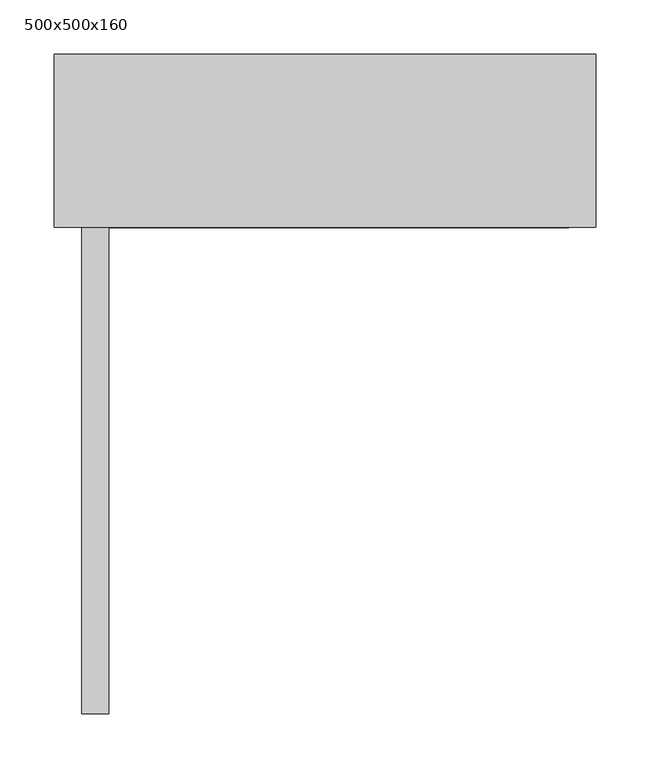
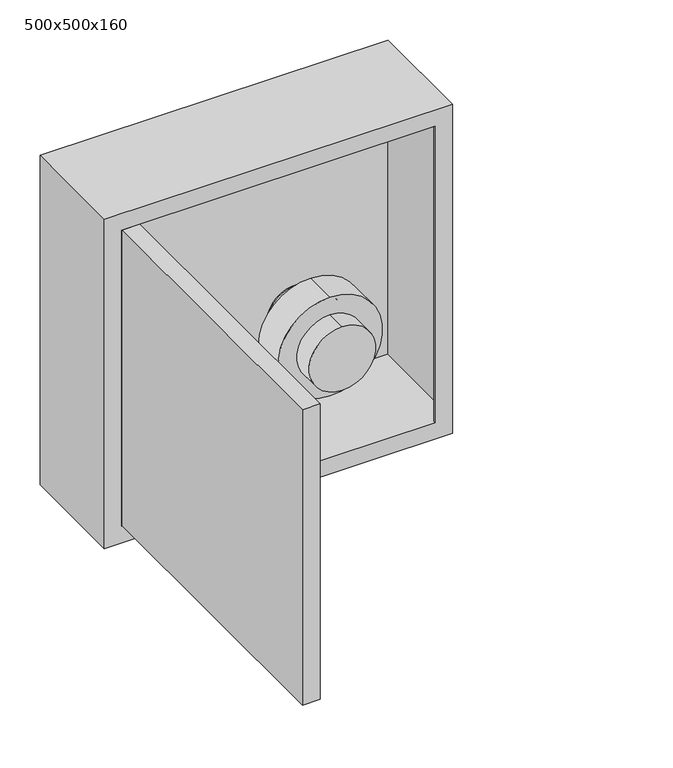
"""IFC4 building model written with IfcOpenShell, lengths in millimetres: furniture geometry, ME_ST_UN_connection box double connection_ACO : 500x500x160."""

from ifc_helpers import new_model, si_unit, point, frame, frame_2d, origin, place, context, project, spatial, polyline, circle_curve, trimmed, segment, composite_curve, outline, extrude, source, transform, mapped, element, save
from ifc_brep_helpers import plane_surface, cylinder_surface, revolved_surface, advanced_brep


def furniture_500x500x160_cb3627f5(model_context):
    return source(origin(), model_context, "Body", "SolidModel", [
        extrude(outline(composite_curve([segment(trimmed(circle_curve(frame_2d((136.5, 115.0)), 25.0), [point((111.5, 115.0))], [point((161.5, 115.0))], False, "CARTESIAN"), True, "CONTINUOUS"), segment(trimmed(circle_curve(frame_2d((136.5, 115.0)), 25.0), [point((161.5, 115.0))], [point((111.5, 115.0))], False, "CARTESIAN"), True, "CONTINUOUS")], self_intersect=False)), frame((0.0, 148.0, 0.0), z_axis=(0.0, 1.0, 0.0), x_axis=(0.0, 0.0, 1.0)), (0.0, 0.0, 1.0), 12.0),
        advanced_brep(
        [(115.0, 148.0, 88.5), (115.0, 148.0, 184.5), (115.0, 40.0, 88.5), (115.0, 40.0, 184.5), (115.0, 118.0, 184.5), (115.0, 118.0, 88.5), (115.0, 70.0, 88.5), (115.0, 70.0, 184.5), (115.0, 118.0, 61.5), (115.0, 118.0, 211.5), (115.0, 70.0, 61.5), (115.0, 70.0, 211.5)],
        [
            (0, 1, circle_curve(frame((115.0, 148.0, 136.5), z_axis=(0.0, 1.0, 0.0), x_axis=(0.0, 0.0, 1.0)), 48.0)),
            (1, 0, circle_curve(frame((115.0, 148.0, 136.5), z_axis=(0.0, 1.0, 0.0), x_axis=(0.0, 0.0, 1.0)), 48.0)),
            (2, 3, circle_curve(frame((115.0, 40.0, 136.5), z_axis=(0.0, -1.0, 0.0), x_axis=(0.0, 0.0, 1.0)), 48.0)),
            (3, 2, circle_curve(frame((115.0, 40.0, 136.5), z_axis=(0.0, -1.0, 0.0), x_axis=(0.0, 0.0, 1.0)), 48.0)),
            (1, 4),
            (4, 5, circle_curve(frame((115.0, 118.0, 136.5), z_axis=(0.0, 1.0, 0.0), x_axis=(0.0, 0.0, 1.0)), 48.0)),
            (5, 0),
            (2, 6),
            (6, 7, circle_curve(frame((115.0, 70.0, 136.5), z_axis=(0.0, -1.0, 0.0), x_axis=(0.0, 0.0, 1.0)), 48.0)),
            (7, 3),
            (5, 4, circle_curve(frame((115.0, 118.0, 136.5), z_axis=(0.0, 1.0, 0.0), x_axis=(0.0, 0.0, 1.0)), 48.0)),
            (7, 6, circle_curve(frame((115.0, 70.0, 136.5), z_axis=(0.0, -1.0, 0.0), x_axis=(0.0, 0.0, 1.0)), 48.0)),
            (8, 9, circle_curve(frame((115.0, 118.0, 136.5), z_axis=(0.0, 1.0, 0.0), x_axis=(0.0, 0.0, 1.0)), 75.0)),
            (9, 8, circle_curve(frame((115.0, 118.0, 136.5), z_axis=(0.0, 1.0, 0.0), x_axis=(0.0, 0.0, 1.0)), 75.0)),
            (10, 11, circle_curve(frame((115.0, 70.0, 136.5), z_axis=(0.0, -1.0, 0.0), x_axis=(0.0, 0.0, 1.0)), 75.0)),
            (11, 10, circle_curve(frame((115.0, 70.0, 136.5), z_axis=(0.0, -1.0, 0.0), x_axis=(0.0, 0.0, 1.0)), 75.0)),
            (9, 11),
            (10, 8),
        ],
        [
            plane_surface(frame((115.0, 148.0, 184.5), z_axis=(0.0, 1.0, 0.0), x_axis=(1.0, 0.0, 0.0))),
            plane_surface(frame((115.0, 40.0, 184.5), z_axis=(0.0, -1.0, 0.0), x_axis=(-1.0, 0.0, 0.0))),
            cylinder_surface(frame((115.0, 148.0, 136.5), z_axis=(0.0, -1.0, 0.0), x_axis=(0.0, 0.0, 1.0)), 48.0),
            plane_surface(frame((115.0, 118.0, 211.5), z_axis=(0.0, 1.0, 0.0), x_axis=(1.0, 0.0, 0.0))),
            plane_surface(frame((115.0, 70.0, 211.5), z_axis=(0.0, -1.0, 0.0), x_axis=(-1.0, 0.0, 0.0))),
            cylinder_surface(frame((115.0, 118.0, 136.5), z_axis=(0.0, -1.0, 0.0), x_axis=(0.0, 0.0, 1.0)), 75.0),
        ],
        [
            (0, [[1, 2]]),
            (1, [[3, 4]]),
            (2, [[-2, 5, 6, 7]]),
            (2, [[-3, 8, 9, 10]]),
            (2, [[-1, -7, 11, -5]]),
            (2, [[-4, -10, 12, -8]]),
            (3, [[13, 14], [-6, -11]]),
            (4, [[15, 16], [-9, -12]]),
            (5, [[-14, 17, -15, 18]]),
            (5, [[-13, -18, -16, -17]]),
        ],
    ),
        extrude(outline(composite_curve([segment(trimmed(circle_curve(frame_2d((136.5, -115.0)), 25.0), [point((111.5, -115.0))], [point((161.5, -115.0))], False, "CARTESIAN"), True, "CONTINUOUS"), segment(trimmed(circle_curve(frame_2d((136.5, -115.0)), 25.0), [point((161.5, -115.0))], [point((111.5, -115.0))], False, "CARTESIAN"), True, "CONTINUOUS")], self_intersect=False)), frame((0.0, 148.0, 0.0), z_axis=(0.0, 1.0, 0.0), x_axis=(0.0, 0.0, 1.0)), (0.0, 0.0, 1.0), 12.0),
        advanced_brep(
        [(-115.0, 148.0, 88.5), (-115.0, 148.0, 184.5), (-115.0, 40.0, 88.5), (-115.0, 40.0, 184.5), (-115.0, 118.0, 184.5), (-115.0, 118.0, 88.5), (-115.0, 70.0, 88.5), (-115.0, 70.0, 184.5), (-115.0, 118.0, 61.5), (-115.0, 118.0, 211.5), (-115.0, 70.0, 61.5), (-115.0, 70.0, 211.5)],
        [
            (0, 1, circle_curve(frame((-115.0, 148.0, 136.5), z_axis=(0.0, 1.0, 0.0), x_axis=(0.0, 0.0, 1.0)), 48.0)),
            (1, 0, circle_curve(frame((-115.0, 148.0, 136.5), z_axis=(0.0, 1.0, 0.0), x_axis=(0.0, 0.0, 1.0)), 48.0)),
            (2, 3, circle_curve(frame((-115.0, 40.0, 136.5), z_axis=(0.0, -1.0, 0.0), x_axis=(0.0, 0.0, 1.0)), 48.0)),
            (3, 2, circle_curve(frame((-115.0, 40.0, 136.5), z_axis=(0.0, -1.0, 0.0), x_axis=(0.0, 0.0, 1.0)), 48.0)),
            (1, 4),
            (4, 5, circle_curve(frame((-115.0, 118.0, 136.5), z_axis=(0.0, 1.0, 0.0), x_axis=(0.0, 0.0, 1.0)), 48.0)),
            (5, 0),
            (2, 6),
            (6, 7, circle_curve(frame((-115.0, 70.0, 136.5), z_axis=(0.0, -1.0, 0.0), x_axis=(0.0, 0.0, 1.0)), 48.0)),
            (7, 3),
            (5, 4, circle_curve(frame((-115.0, 118.0, 136.5), z_axis=(0.0, 1.0, 0.0), x_axis=(0.0, 0.0, 1.0)), 48.0)),
            (7, 6, circle_curve(frame((-115.0, 70.0, 136.5), z_axis=(0.0, -1.0, 0.0), x_axis=(0.0, 0.0, 1.0)), 48.0)),
            (8, 9, circle_curve(frame((-115.0, 118.0, 136.5), z_axis=(0.0, 1.0, 0.0), x_axis=(0.0, 0.0, 1.0)), 75.0)),
            (9, 8, circle_curve(frame((-115.0, 118.0, 136.5), z_axis=(0.0, 1.0, 0.0), x_axis=(0.0, 0.0, 1.0)), 75.0)),
            (10, 11, circle_curve(frame((-115.0, 70.0, 136.5), z_axis=(0.0, -1.0, 0.0), x_axis=(0.0, 0.0, 1.0)), 75.0)),
            (11, 10, circle_curve(frame((-115.0, 70.0, 136.5), z_axis=(0.0, -1.0, 0.0), x_axis=(0.0, 0.0, 1.0)), 75.0)),
            (9, 11),
            (10, 8),
        ],
        [
            plane_surface(frame((-115.0, 148.0, 184.5), z_axis=(0.0, 1.0, 0.0), x_axis=(1.0, 0.0, 0.0))),
            plane_surface(frame((-115.0, 40.0, 184.5), z_axis=(0.0, -1.0, 0.0), x_axis=(-1.0, 0.0, 0.0))),
            cylinder_surface(frame((-115.0, 148.0, 136.5), z_axis=(0.0, -1.0, 0.0), x_axis=(0.0, 0.0, 1.0)), 48.0),
            plane_surface(frame((-115.0, 118.0, 211.5), z_axis=(0.0, 1.0, 0.0), x_axis=(1.0, 0.0, 0.0))),
            plane_surface(frame((-115.0, 70.0, 211.5), z_axis=(0.0, -1.0, 0.0), x_axis=(-1.0, 0.0, 0.0))),
            cylinder_surface(frame((-115.0, 118.0, 136.5), z_axis=(0.0, -1.0, 0.0), x_axis=(0.0, 0.0, 1.0)), 75.0),
        ],
        [
            (0, [[1, 2]]),
            (1, [[3, 4]]),
            (2, [[-2, 5, 6, 7]]),
            (2, [[-3, 8, 9, 10]]),
            (2, [[-1, -7, 11, -5]]),
            (2, [[-4, -10, 12, -8]]),
            (3, [[13, 14], [-6, -11]]),
            (4, [[15, 16], [-9, -12]]),
            (5, [[-14, 17, -15, 18]]),
            (5, [[-13, -18, -16, -17]]),
        ],
    ),
        extrude(outline(polyline([(-224.5, -449.0), (-224.5, 0.0), (-199.5, 0.0), (-199.5, -449.0), (-224.5, -449.0)])), frame((0.0, 0.0, 25.5), z_axis=(0.0, 0.0, 1.0), x_axis=(1.0, 0.0, 0.0)), (0.0, 0.0, 1.0), 449.0),
        advanced_brep(
        [(250.0, 160.0, 500.0), (-250.0, 160.0, 500.0), (-250.0, 0.0, 500.0), (250.0, 0.0, 500.0), (250.0, 160.0, 0.0), (250.0, 0.0, 0.0), (-250.0, 0.0, 0.0), (-250.0, 160.0, 0.0), (-155.0, 160.0, 136.5), (-75.0, 160.0, 136.5), (75.0, 160.0, 136.5), (155.0, 160.0, 136.5), (-225.0, 0.0, 475.0), (225.0, 0.0, 475.0), (225.0, 0.0, 25.0), (-225.0, 0.0, 25.0), (248.0, 158.0, 475.0), (248.0, 2.0, 475.0), (225.0, 2.0, 475.0), (-225.0, 2.0, 475.0), (-248.0, 2.0, 475.0), (-248.0, 158.0, 475.0), (248.0, 158.0, 25.0), (-248.0, 158.0, 25.0), (-248.0, 2.0, 25.0), (-225.0, 2.0, 25.0), (225.0, 2.0, 25.0), (248.0, 2.0, 25.0), (-75.0, 158.0, 136.5), (-155.0, 158.0, 136.5), (155.0, 158.0, 136.5), (75.0, 158.0, 136.5)],
        [
            (0, 1),
            (1, 2),
            (2, 3),
            (3, 0),
            (4, 5),
            (5, 6),
            (6, 7),
            (7, 4),
            (0, 4),
            (7, 1),
            (8, 9, circle_curve(frame((-115.0, 160.0, 136.5), z_axis=(0.0, -1.0, 0.0), x_axis=(1.0, 0.0, 0.0)), 40.0)),
            (9, 8, circle_curve(frame((-115.0, 160.0, 136.5), z_axis=(0.0, -1.0, 0.0), x_axis=(1.0, 0.0, 0.0)), 40.0)),
            (10, 11, circle_curve(frame((115.0, 160.0, 136.5), z_axis=(0.0, -1.0, 0.0), x_axis=(1.0, 0.0, 0.0)), 40.0)),
            (11, 10, circle_curve(frame((115.0, 160.0, 136.5), z_axis=(0.0, -1.0, 0.0), x_axis=(1.0, 0.0, 0.0)), 40.0)),
            (6, 2),
            (5, 3),
            (12, 13),
            (13, 14),
            (14, 15),
            (15, 12),
            (16, 17),
            (17, 18),
            (18, 13),
            (12, 19),
            (19, 20),
            (20, 21),
            (21, 16),
            (22, 23),
            (23, 24),
            (24, 25),
            (25, 15),
            (14, 26),
            (26, 27),
            (27, 22),
            (21, 23),
            (22, 16),
            (28, 29, circle_curve(frame((-115.0, 158.0, 136.5), z_axis=(0.0, 1.0, 0.0), x_axis=(1.0, 0.0, 0.0)), 40.0)),
            (29, 28, circle_curve(frame((-115.0, 158.0, 136.5), z_axis=(0.0, 1.0, 0.0), x_axis=(1.0, 0.0, 0.0)), 40.0)),
            (30, 31, circle_curve(frame((115.0, 158.0, 136.5), z_axis=(0.0, 1.0, 0.0), x_axis=(1.0, 0.0, 0.0)), 40.0)),
            (31, 30, circle_curve(frame((115.0, 158.0, 136.5), z_axis=(0.0, 1.0, 0.0), x_axis=(1.0, 0.0, 0.0)), 40.0)),
            (27, 17),
            (20, 24),
            (19, 25),
            (18, 26),
            (28, 9),
            (8, 29),
            (30, 11),
            (10, 31),
        ],
        [
            plane_surface(frame((-250.0, 160.0, 500.0), z_axis=(0.0, 0.0, 1.0), x_axis=(-1.0, 0.0, 0.0))),
            plane_surface(frame((-250.0, 160.0, 0.0), z_axis=(0.0, 0.0, -1.0), x_axis=(1.0, 0.0, 0.0))),
            plane_surface(frame((250.0, 160.0, 500.0), z_axis=(0.0, 1.0, 0.0), x_axis=(0.0, 0.0, -1.0))),
            plane_surface(frame((-250.0, 160.0, 500.0), z_axis=(-1.0, 0.0, 0.0), x_axis=(0.0, 0.0, -1.0))),
            plane_surface(frame((-250.0, 0.0, 500.0), z_axis=(0.0, -1.0, 0.0), x_axis=(0.0, 0.0, -1.0))),
            plane_surface(frame((250.0, 0.0, 500.0), z_axis=(1.0, 0.0, 0.0), x_axis=(0.0, 0.0, -1.0))),
            plane_surface(frame((-248.0, 158.0, 475.0), z_axis=(0.0, 0.0, -1.0), x_axis=(-1.0, 0.0, 0.0))),
            plane_surface(frame((-248.0, 158.0, 25.0), z_axis=(0.0, 0.0, 1.0), x_axis=(1.0, 0.0, 0.0))),
            plane_surface(frame((248.0, 158.0, 475.0), z_axis=(0.0, -1.0, 0.0), x_axis=(0.0, 0.0, -1.0))),
            plane_surface(frame((248.0, 2.0, 475.0), z_axis=(-1.0, 0.0, 0.0), x_axis=(0.0, 0.0, -1.0))),
            plane_surface(frame((-248.0, 158.0, 475.0), z_axis=(1.0, 0.0, 0.0), x_axis=(0.0, 0.0, -1.0))),
            plane_surface(frame((-248.0, 2.0, 475.0), z_axis=(0.0, 1.0, 0.0), x_axis=(0.0, 0.0, -1.0))),
            plane_surface(frame((-225.0, 2.0, 475.0), z_axis=(1.0, 0.0, 0.0), x_axis=(0.0, 0.0, -1.0))),
            plane_surface(frame((225.0, 0.0, 475.0), z_axis=(-1.0, 0.0, 0.0), x_axis=(0.0, 0.0, -1.0))),
            plane_surface(frame((225.0, 2.0, 475.0), z_axis=(0.0, 1.0, 0.0), x_axis=(0.0, 0.0, -1.0))),
            revolved_surface(polyline([(-75.0, 158.0, 136.5), (-75.0, 160.0, 136.5)]), (-115.0, 160.0, 136.5), (0.0, -1.0, 0.0)),
            revolved_surface(polyline([(155.0, 158.0, 136.5), (155.0, 160.0, 136.5)]), (115.0, 160.0, 136.5), (0.0, -1.0, 0.0)),
        ],
        [
            (0, [[1, 2, 3, 4]]),
            (1, [[5, 6, 7, 8]]),
            (2, [[-1, 9, -8, 10], [11, 12], [13, 14]]),
            (3, [[-2, -10, -7, 15]]),
            (4, [[-3, -15, -6, 16], [17, 18, 19, 20]]),
            (5, [[-4, -16, -5, -9]]),
            (6, [[21, 22, 23, -17, 24, 25, 26, 27]]),
            (7, [[28, 29, 30, 31, -19, 32, 33, 34]]),
            (8, [[-27, 35, -28, 36], [37, 38], [39, 40]]),
            (9, [[-21, -36, -34, 41]]),
            (10, [[-26, 42, -29, -35]]),
            (11, [[-25, 43, -30, -42]]),
            (12, [[-24, -20, -31, -43]]),
            (13, [[-23, 44, -32, -18]]),
            (14, [[-22, -41, -33, -44]]),
            (15, [[45, -11, 46, -37]]),
            (15, [[-45, -38, -46, -12]]),
            (16, [[47, -13, 48, -39]]),
            (16, [[-47, -40, -48, -14]]),
        ],
    ),
    ])


if __name__ == "__main__":
    model = new_model("IFC4")
    model_context = context("Model", 3, world=origin())
    ifc_project = project(units=[si_unit("LENGTHUNIT", "METRE", prefix="MILLI")], contexts=[model_context])
    site = spatial("IfcSite", under=ifc_project)
    building = spatial("IfcBuilding", under=site)
    placement = place(None, origin())
    furniture_500x500x160_shape = furniture_500x500x160_cb3627f5(model_context)
    element("IfcFurniture", 1, ObjectType="ME_ST_UN_connection box double connection_ACO : 500x500x160", at=placement, inside=building, context=model_context, shape_type="MappedRepresentation", body=[
        mapped(furniture_500x500x160_shape, transform((0.0, 0.0, 0.0), x_axis=(1.0, 0.0, 0.0), y_axis=(0.0, 1.0, 0.0), z_axis=(0.0, 0.0, 1.0))),
    ])
    save(model, "model.ifc")
